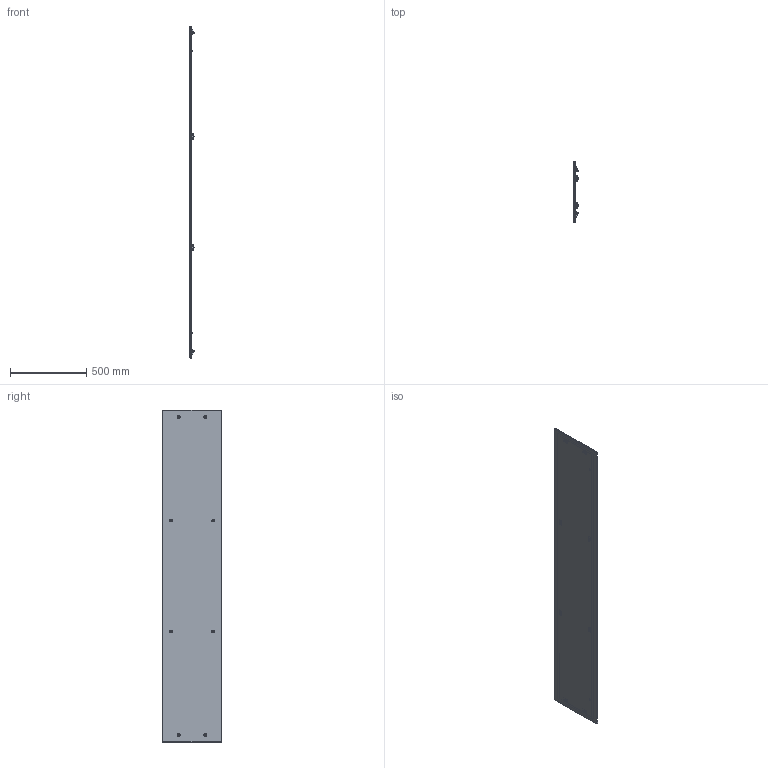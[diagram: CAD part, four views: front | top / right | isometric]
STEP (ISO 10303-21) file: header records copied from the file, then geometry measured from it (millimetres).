
FILE_DESCRIPTION(('STEP AP203'), '1');
FILE_NAME('3630 Ñåêöèîííàÿ ïàíåëü íà âèíòàõ (íà âñþ âûñîòó) ÑÁ', '', ('UNSPECIFIED'), ('UNSPECIFIED'), 'C3D Converter', 'C3D Toolkit', '');
FILE_SCHEMA(('CONFIG_CONTROL_DESIGN'));
Length unit declared in the file: millimetre
Products named in the file (10): 3630.220.40 СБ; 3631.220.40; 3632.220.40; 203-0655.61;  202-1103.15-00530; 3604; 3654
Assembly tree (46 placements, depth 3):
  3630.220.40 СБ
    3631.220.40
      3632.220.40
      (unnamed)  x2
    203-0655.61  x8
     202-1103.15-00530  x8
    3604  x8
      3654
      (unnamed)
    (unnamed)  x16
Bounding box: 31.95 x 391 x 2171 mm (x, y, z)
Volume: 1833884.5 mm3; surface area: 2085003.5 mm2
Topology: 52 solids, 52 shells, 1397 faces, 3444 edges, 2228 vertices
Faces by surface type: plane 759, cylinder 294, bspline 144, cone 114, torus 70, sphere 16
Full cylindrical faces by diameter (mm): 4 x8, 4.134 x8, 4.8 x16, 5 x8, 5.2 x16, 6 x2, 6.38 x8, 6.4 x8, 7.5 x16, 7.74 x8, 8.7 x8, 9.5 x16, 11.5 x4
Entity records: 12757 total; most frequent: CARTESIAN_POINT 4428, DIRECTION 1452, ORIENTED_EDGE 1256, EDGE_CURVE 628, AXIS2_PLACEMENT_3D 544, VERTEX_POINT 414, EDGE_LOOP 396, LINE 364
